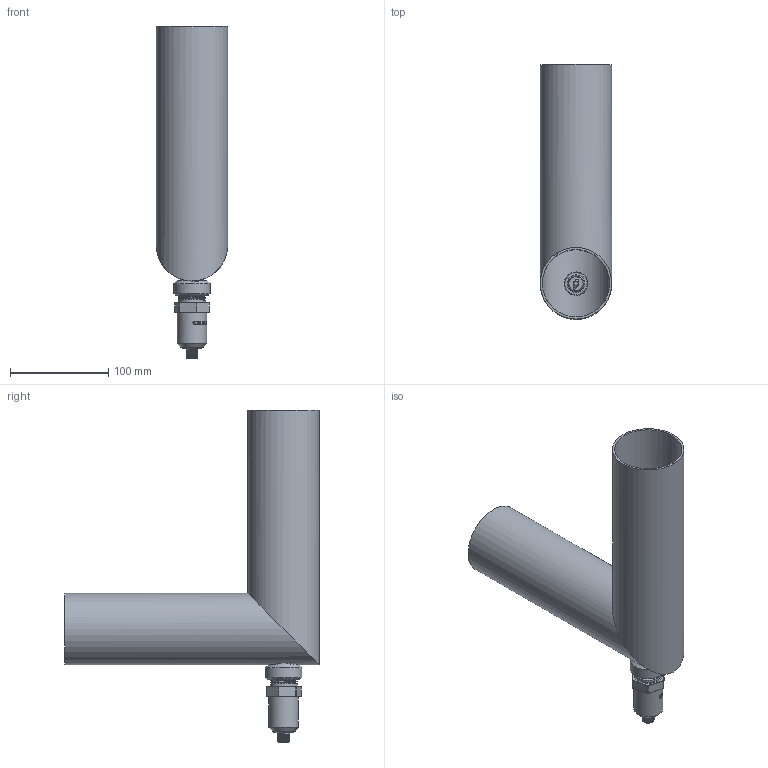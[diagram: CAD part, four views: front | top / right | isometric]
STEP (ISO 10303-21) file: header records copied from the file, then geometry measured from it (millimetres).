
FILE_DESCRIPTION(/* description */ ('Unknown'),/* implementation_level */ '2;1');
FILE_NAME(/* name */ 'WOL-34NL_SRD_Right-Angled-Elbow',/* time_stamp */ '2023-02-08T11:04:10-05:00',/* author */ ('Unknown'),/* organization */ ('Unknown'),/* preprocessor_version */ 'ST-DEVELOPER v16.7',/* originating_system */ 'Solid Edge',/* authorisation */ 'Unknown');
FILE_SCHEMA (('AUTOMOTIVE_DESIGN {1 0 10303 214 3 1 1}'));
Length unit declared in the file: millimetre
Products named in the file (4): WOL-34NL_SRD_right_angle_elbow; 90-degree-elbow; P1_A; P5_A
Assembly tree (3 placements, depth 2):
  WOL-34NL_SRD_right_angle_elbow
    90-degree-elbow
    P1_A
    P5_A
Bounding box: 73 x 260 x 338.64 mm (x, y, z)
Volume: 265824.6 mm3; surface area: 214085 mm2
Topology: 3 solids, 3 shells, 276 faces, 689 edges, 425 vertices
Faces by surface type: bspline 98, plane 82, cylinder 53, cone 23, sphere 12, torus 8
Full cylindrical faces by diameter (mm): 0.8 x8, 5 x1, 8 x1, 12 x7, 16 x1, 24 x1, 30 x1, 37 x1, 68.78 x2, 73 x2
Entity records: 18949 total; most frequent: CARTESIAN_POINT 12085, ORIENTED_EDGE 1110, DIRECTION 768, EDGE_CURVE 555, VERTEX_POINT 365, EDGE_LOOP 330, FACE_BOUND 330, AXIS2_PLACEMENT_3D 279
